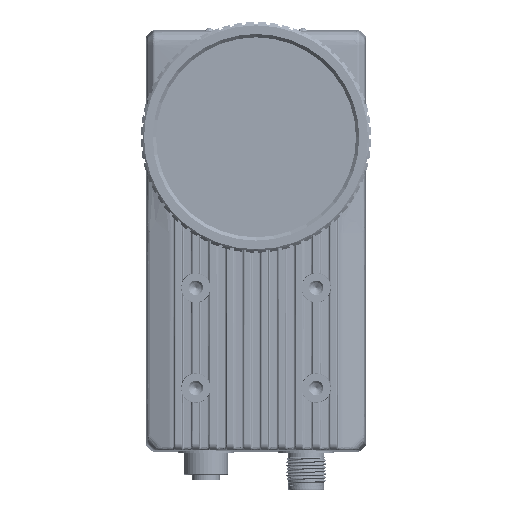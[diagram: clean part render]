
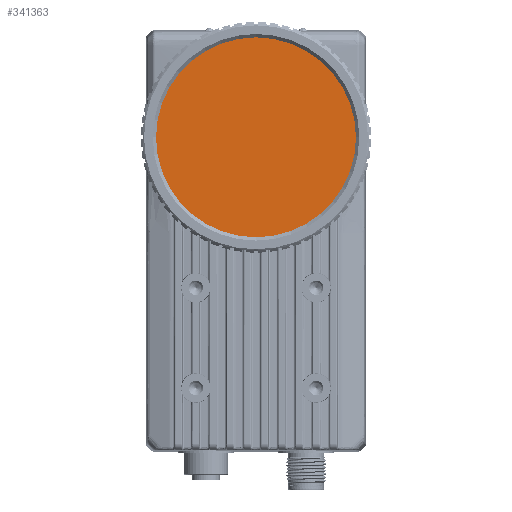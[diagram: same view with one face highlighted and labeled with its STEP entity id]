
A CAD part, front view. The second image highlights one B-rep face of the part: STEP entity #341363.
In plain terms, the highlighted planar face has unit normal (0, -1, 0) as drawn and (0, 0, 1) by its records, which use the part's own axes.
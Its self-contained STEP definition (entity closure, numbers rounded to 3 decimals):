
#341283=CARTESIAN_POINT('',(0.,0.,1.5));
#341284=DIRECTION('',(0.,0.,1.));
#341285=DIRECTION('',(1.,0.,0.));
#341286=AXIS2_PLACEMENT_3D('',#341283,#341284,#341285);
#341291=CARTESIAN_POINT('',(0.,0.,1.5));
#341292=DIRECTION('',(0.,0.,1.));
#341293=DIRECTION('',(-1.,0.,0.));
#341294=AXIS2_PLACEMENT_3D('',#341291,#341292,#341293);
#341303=CARTESIAN_POINT('',(31.8,0.,1.5));
#341304=CARTESIAN_POINT('',(-31.8,0.,1.5));
#341305=VERTEX_POINT('',#341303);
#341306=VERTEX_POINT('',#341304);
#341354=CARTESIAN_POINT('',(0.,0.,1.5));
#341355=DIRECTION('',(0.,0.,1.));
#341356=DIRECTION('',(1.,0.,0.));
#341357=AXIS2_PLACEMENT_3D('',#341354,#341355,#341356);
#341358=PLANE('',#341357);
#341359=ORIENTED_EDGE('',*,*,#341334,.F.);
#341360=ORIENTED_EDGE('',*,*,#341348,.F.);
#341361=EDGE_LOOP('',(#341359,#341360));
#341362=FACE_OUTER_BOUND('',#341361,.F.);
#341363=ADVANCED_FACE('',(#341362),#341358,.T.);
#341287=CIRCLE('',#341286,31.8);
#341295=CIRCLE('',#341294,31.8);
#341334=EDGE_CURVE('',#341305,#341306,#341287,.T.);
#341348=EDGE_CURVE('',#341306,#341305,#341295,.T.);
